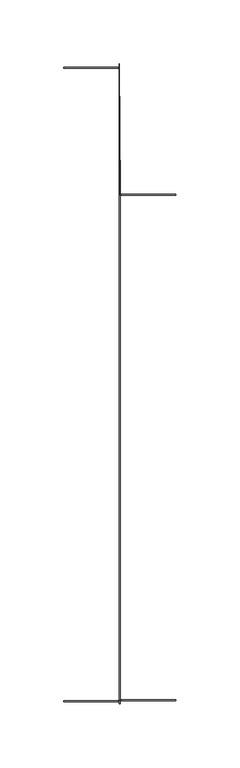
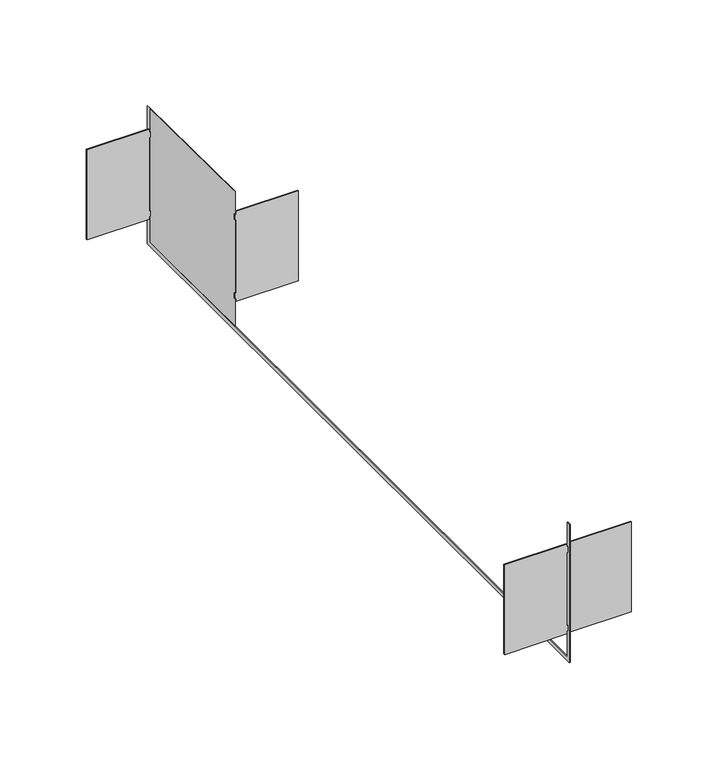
"""IFC4 building model written with IfcOpenShell, lengths in millimetres: cable carrier fitting geometry, REWT_Angle Reducer-Basorcanal : Basorcanal REWT 100x100."""

from ifc_helpers import new_model, si_unit, frame, origin, place, context, project, spatial, polyline, outline, extrude, faceted_brep, source, transform, mapped, element, save


def cable_carrier_fitting_d7bdf130(model_context):
    return source(origin(), model_context, "Body", "SolidModel", [
        extrude(outline(polyline([(35.04, 44.0), (35.04, 1.6), (33.04, 1.6), (33.04, 0.8), (29.04, 0.8), (29.04, 1.6), (2.54, 1.6), (-23.96, 1.6), (-23.96, 0.8), (-27.96, 0.8), (-27.96, 1.6), (-29.96, 1.6), (-29.96, 44.0), (35.04, 44.0)])), frame((0.0, 147.46, 0.0), z_axis=(0.0, 1.0, 0.0), x_axis=(0.0, 0.0, 1.0)), (0.0, 0.0, 1.0), 0.8),
        extrude(outline(polyline([(35.04, -43.2), (-29.96, -43.2), (-29.96, -0.8), (-27.96, -0.8), (-27.96, 0.0), (-23.96, 0.0), (-23.96, -0.8), (2.54, -0.8), (29.04, -0.8), (29.04, 0.0), (33.04, 0.0), (33.04, -0.8), (35.04, -0.8), (35.04, -43.2)])), frame((0.0, -248.26, 0.0), z_axis=(0.0, 1.0, 0.0), x_axis=(0.0, 0.0, 1.0)), (0.0, 0.0, 1.0), 0.8),
        extrude(outline(polyline([(35.04, -43.2), (-29.96, -43.2), (-29.96, -0.8), (-27.96, -0.8), (-27.96, 0.0), (-23.96, 0.0), (-23.96, -0.8), (2.54, -0.8), (29.04, -0.8), (29.04, 0.0), (33.04, 0.0), (33.04, -0.8), (35.04, -0.8), (35.04, -43.2)])), frame((0.0, 246.66, 0.0), z_axis=(0.0, 1.0, 0.0), x_axis=(0.0, 0.0, 1.0)), (0.0, 0.0, 1.0), 0.8),
        extrude(outline(polyline([(35.04, 44.0), (35.04, 1.6), (33.04, 1.6), (33.04, 0.8), (29.04, 0.8), (29.04, 1.6), (2.54, 1.6), (-23.96, 1.6), (-23.96, 0.8), (-27.96, 0.8), (-27.96, 1.6), (-29.96, 1.6), (-29.96, 44.0), (35.04, 44.0)])), frame((0.0, -247.46, 0.0), z_axis=(0.0, 1.0, 0.0), x_axis=(0.0, 0.0, 1.0)), (0.0, 0.0, 1.0), 0.8),
        faceted_brep([(0.8, -250.0, -50.0), (0.8, 150.0, -50.0), (0.8, 150.0, 50.0), (0.8, 147.46, 50.0), (0.8, 147.46, -47.46), (0.8, -247.46, -47.46), (0.8, -247.46, 50.0), (0.8, -250.0, 50.0), (0.0, -250.0, -50.0), (0.0, -250.0, 50.0), (0.0, -247.46, 50.0), (0.0, -247.46, -47.46), (0.0, 247.46, -47.46), (0.0, 247.46, 50.0), (0.0, 250.0, 50.0), (0.0, 250.0, -50.0)], [[[0, 1, 2, 3, 4, 5, 6, 7]], [[8, 9, 10, 11, 12, 13, 14, 15]], [[8, 15, 1, 0]], [[15, 14, 2, 1]], [[14, 13, 3, 2]], [[13, 12, 4, 3]], [[12, 11, 5, 4]], [[11, 10, 6, 5]], [[10, 9, 7, 6]], [[9, 8, 0, 7]]]),
    ])


if __name__ == "__main__":
    model = new_model("IFC4")
    model_context = context("Model", 3, world=origin())
    ifc_project = project(units=[si_unit("LENGTHUNIT", "METRE", prefix="MILLI")], contexts=[model_context])
    site = spatial("IfcSite", under=ifc_project)
    building = spatial("IfcBuilding", under=site)
    placement = place(None, origin())
    cable_carrier_fitting_shape = cable_carrier_fitting_d7bdf130(model_context)
    element("IfcCableCarrierFitting", 1, ObjectType="REWT_Angle Reducer-Basorcanal : Basorcanal REWT 100x100", at=placement, inside=building, context=model_context, shape_type="MappedRepresentation", body=[
        mapped(cable_carrier_fitting_shape, transform((0.0, 0.0, 0.0), x_axis=(1.0, 0.0, 0.0), y_axis=(0.0, 1.0, 0.0), z_axis=(0.0, 0.0, 1.0))),
    ])
    save(model, "model.ifc")
